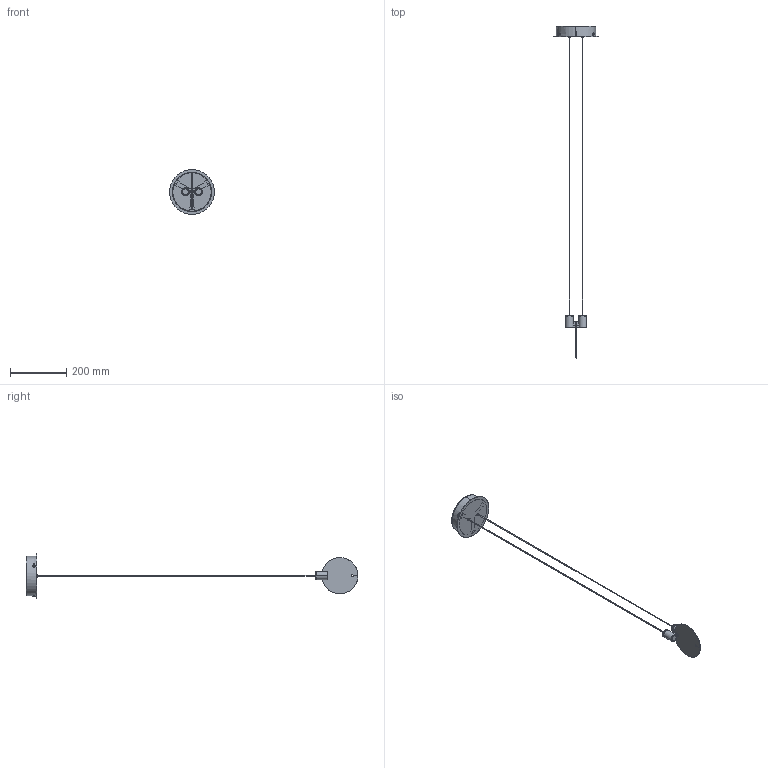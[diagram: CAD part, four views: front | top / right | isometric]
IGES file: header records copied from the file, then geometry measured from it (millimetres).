
Start section: SolidWorks IGES file using analytic representation for surfaces
Global section: file name: C:\SANTACOLE_PDM\Proyectos Catálogo\PROD-P17-017 -- Mascarás\6_Técnico comercial\3D\Bijou S.IGS; native system: SolidWorks 2021; preprocessor: SolidWorks 2021; author: clara.galimany; date: 230420.134954; units: millimetre
Bounding box: 160 x 1185.4 x 160 mm (x, y, z)
Surface area: 169170.6 mm2 (no closed solid volume)
Topology: 0 solids, 0 shells, 718 faces, 8281 edges, 8281 vertices
Faces by surface type: bspline 579, revolution 139
